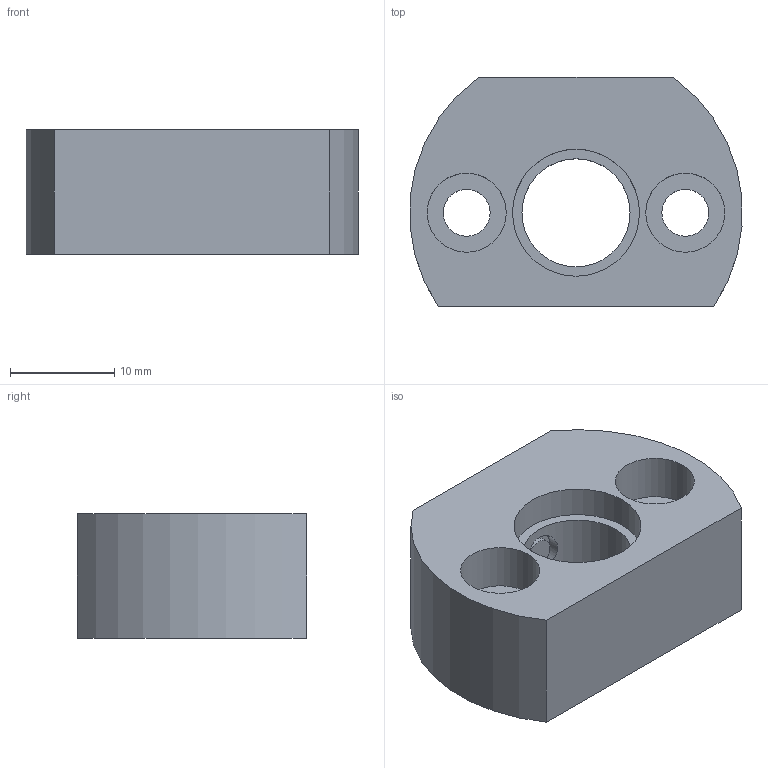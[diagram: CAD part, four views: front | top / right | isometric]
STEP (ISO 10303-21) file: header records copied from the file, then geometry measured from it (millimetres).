
FILE_DESCRIPTION( ( 'STEP AP203' ), '1' );
FILE_NAME( 'C:/Temp/Ganter_Step_05_03_2020/data/3_1/gn612n_1/gn612n_1_a/Stainless steel-Mounting block GN 612.1-M12x1,5-A-NI.stp', '2020-03-12T08:37:12', ( 'License CC BY-ND 4.0' ), ( 'CADENAS' ), ' ', 'PARTsolutions', ' ' );
FILE_SCHEMA( ( 'CONFIG_CONTROL_DESIGN' ) );
Length unit declared in the file: millimetre
Products named in the file (1): _Stainless steel-Mounting block GN 612.1-M12x1,5-A-NI
Bounding box: 31.89 x 22 x 12 mm (x, y, z)
Volume: 5830.7 mm3; surface area: 3043.7 mm2
Topology: 1 solids, 1 shells, 31 faces, 64 edges, 42 vertices
Faces by surface type: plane 17, cylinder 11, cone 3
Full cylindrical faces by diameter (mm): 3 x1, 4.134 x2, 4.5 x2, 7.6 x2, 10.376 x1, 12.2 x1
Entity records: 868 total; most frequent: CARTESIAN_POINT 181, DIRECTION 138, ORIENTED_EDGE 102, AXIS2_PLACEMENT_3D 56, EDGE_LOOP 56, EDGE_CURVE 51, VERTEX_POINT 41, FACE_OUTER_BOUND 40
